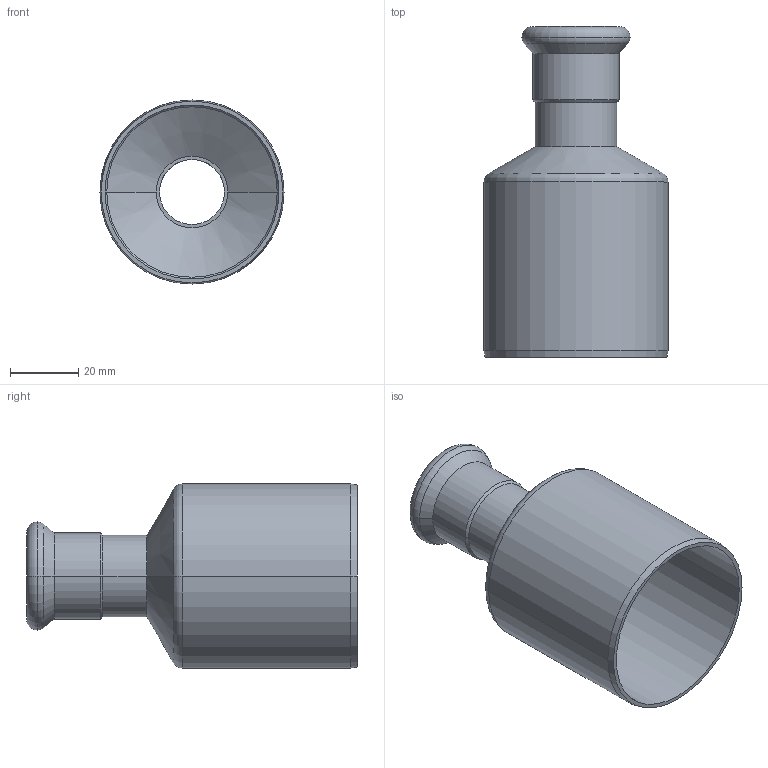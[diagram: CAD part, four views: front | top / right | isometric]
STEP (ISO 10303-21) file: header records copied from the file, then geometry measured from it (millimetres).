
FILE_DESCRIPTION(('CoCreate Modeling STEP Export'),'2;1');
FILE_NAME('C1407 22x54.stp','2014-11-07T16:31:03',(''),(''),'CoCreate Modeling STEP processor for AP214 (Solid Model)','CoCreate Modeling 17.00A 17-Jun-2010 (C) Parametric Technology GmbH','');
FILE_SCHEMA(('AUTOMOTIVE_DESIGN { 1 0 10303 214 1 1 1 1 }'));
Length unit declared in the file: millimetre
Products named in the file (2): C1407_22x54
Assembly tree (1 placements, depth 2):
  C1407_22x54
    C1407_22x54
Bounding box: 54 x 97 x 54 mm (x, y, z)
Volume: 21827.3 mm3; surface area: 27505.8 mm2
Topology: 1 solids, 1 shells, 39 faces, 79 edges, 45 vertices
Faces by surface type: cylinder 16, cone 10, torus 8, plane 5
Entity records: 866 total; most frequent: ORIENTED_EDGE 158, DIRECTION 132, CARTESIAN_POINT 124, EDGE_CURVE 79, AXIS2_PLACEMENT_3D 53, VERTEX_POINT 45, EDGE_LOOP 44, FACE_OUTER_BOUND 39
